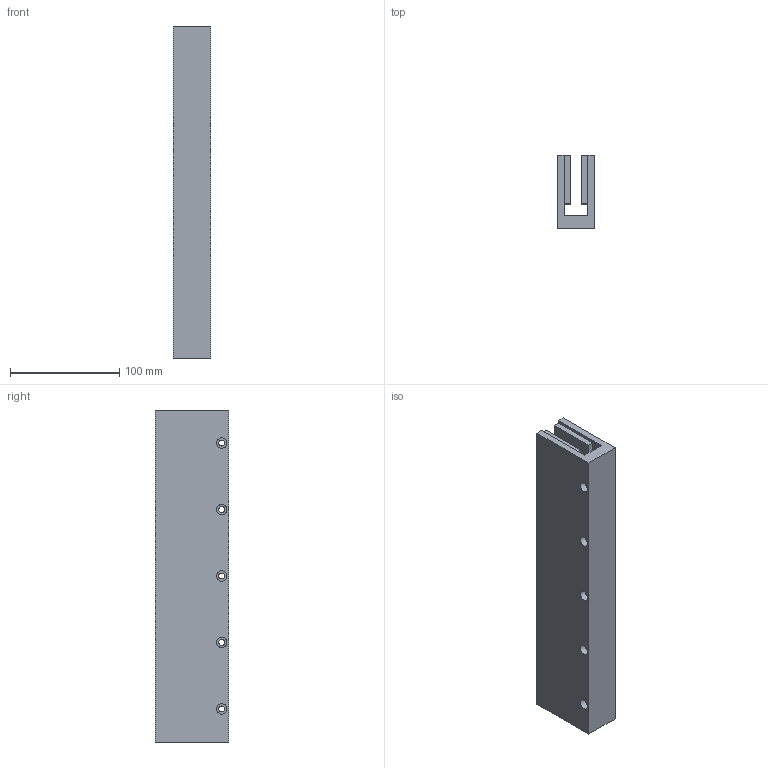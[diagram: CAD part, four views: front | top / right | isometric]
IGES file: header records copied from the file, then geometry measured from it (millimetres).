
Global section: file name: No Iges File Name specified; native system: Autodesk Inventor 2012; preprocessor: AutoDesk Inventor Iges Exporter R2012; author: je17857; date: 20120511.155627; units: inch
Bounding box: 34.29 x 67.31 x 304.55 mm (x, y, z)
Volume: 452944.5 mm3; surface area: 117028.1 mm2
Topology: 1 solids, 1 shells, 135 faces, 309 edges, 206 vertices
Faces by surface type: plane 120, revolution 15
